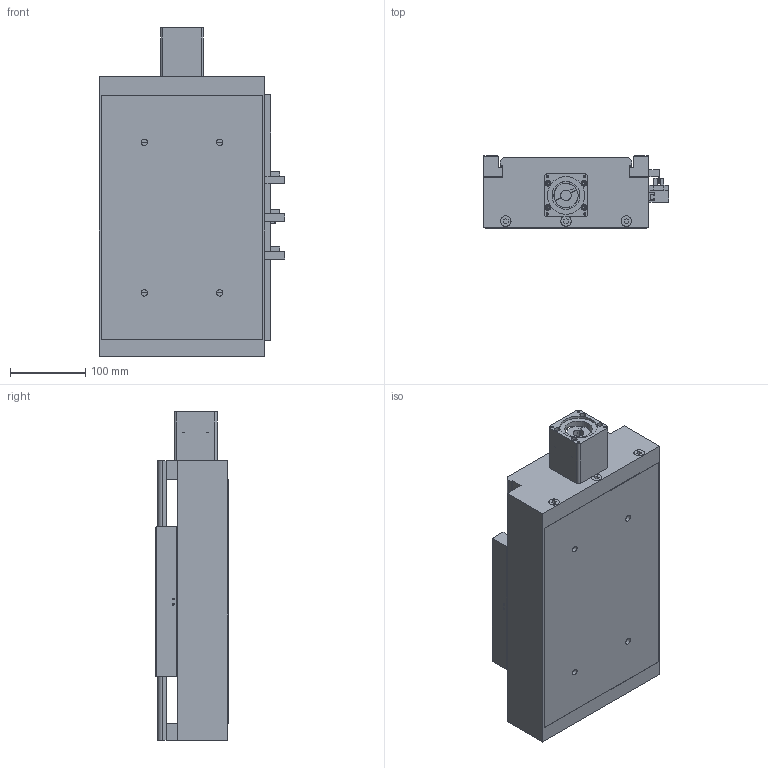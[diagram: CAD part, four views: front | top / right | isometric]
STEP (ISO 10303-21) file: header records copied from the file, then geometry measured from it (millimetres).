
FILE_DESCRIPTION((''),'2;1');
FILE_NAME('E:\libraries\UIA actuator library 2016\standard actuator\UIA220R20NDC\UIA220R20NDC ball screw 20\UIA220R20NDC-_ _ _-R20_ _ stp file, 01May16\UIA220R20NDC-100-R20_ _-M60-P13-C10-S.stp','2016-04-29T15:08:45',('h029'),(''),'Autodesk Inventor 11','Autodesk Inventor 11','');
FILE_SCHEMA(('AUTOMOTIVE_DESIGN { 1 0 10303 214 1 1 1 1 }'));
Length unit declared in the file: millimetre
Products named in the file (10): UIA220R20NDC-100-R20_ _; UIA220R20NDC-body; 41-100 0010 CARRIAGE; sensor rail; Sensor Switch; motor mount M60; SOH-32C; SOH-32C-3; SOH-32C-1; SOH-32C-2
Assembly tree (9 placements, depth 3):
  UIA220R20NDC-100-R20_ _
    UIA220R20NDC-body
    41-100 0010 CARRIAGE
    sensor rail
    Sensor Switch
    motor mount M60
    SOH-32C
      SOH-32C-3
      SOH-32C-1
      SOH-32C-2
Bounding box: 246.5 x 96 x 436 mm (x, y, z)
Volume: 3384803.8 mm3; surface area: 691396.6 mm2
Topology: 8 solids, 8 shells, 500 faces, 1342 edges, 882 vertices
Faces by surface type: plane 341, bspline 109, cylinder 48, cone 2
Full cylindrical faces by diameter (mm): 3.242 x2, 4.5 x2, 7 x4, 7.5 x2, 12 x2, 13.8 x3, 14 x4, 15 x1, 32 x3, 37 x1, 46.9 x1, 47.1 x1
Entity records: 16326 total; most frequent: CARTESIAN_POINT 4540, ORIENTED_EDGE 2298, DIRECTION 2249, EDGE_CURVE 1149, VECTOR 849, LINE 849, VERTEX_POINT 808, EDGE_LOOP 711
